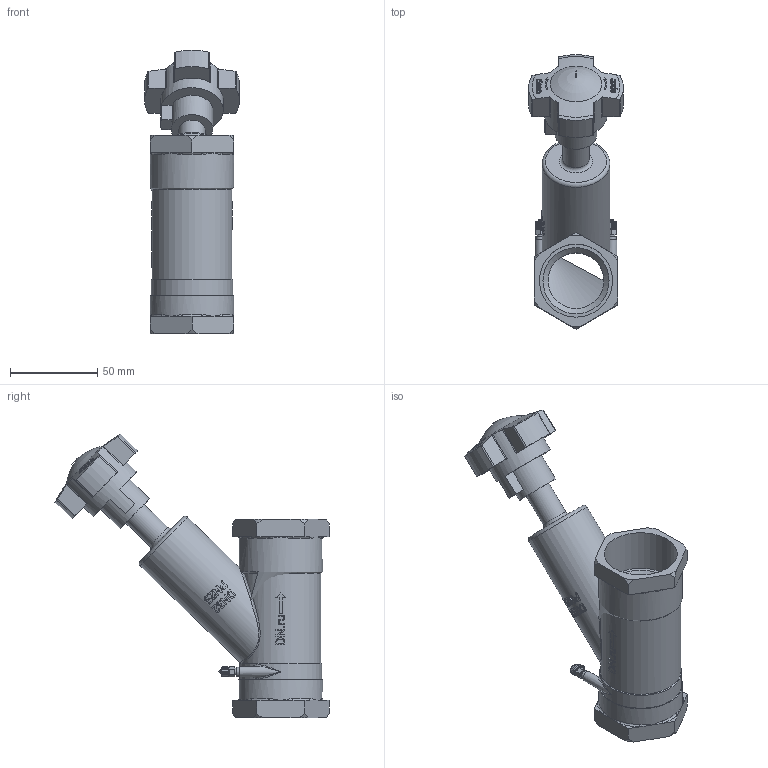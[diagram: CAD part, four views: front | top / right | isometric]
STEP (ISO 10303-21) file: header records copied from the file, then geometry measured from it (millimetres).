
FILE_DESCRIPTION(('STEP AP242'), '1');
FILE_NAME('VB0000P-T Êëàïàí áàëàíñèðîâî÷íûé DN.ru Äó32 Ðó25', '2026-04-26T18:02:23', ('R2D2'), (''), 'C3D Converter', 'C3D Toolkit', '');
FILE_SCHEMA(('AP242_MANAGED_MODEL_BASED_3D_ENGINEERING_MIM_LF { 1 0 10303 442 1 1 4 }'));
Length unit declared in the file: millimetre
Products named in the file (1): VB0000P-T
Bounding box: 54.26 x 157.4 x 162.95 mm (x, y, z)
Volume: 212884.8 mm3; surface area: 50522.4 mm2
Topology: 1 solids, 2 shells, 756 faces, 2078 edges, 1347 vertices
Faces by surface type: plane 322, extrusion 271, cylinder 78, bspline 30, cone 21, revolution 17, torus 15, sphere 2
Full cylindrical faces by diameter (mm): 2 x2, 4 x6, 5 x2, 6 x2, 15 x1, 24 x1, 32 x1, 33 x1, 36 x1, 39 x1, 41.91 x2, 47 x1, 48 x2
Entity records: 47602 total; most frequent: CARTESIAN_POINT 24423, ORIENTED_EDGE 4026, DIRECTION 2478, EDGE_CURVE 2013, VERTEX_POINT 1344, VECTOR 1133, B_SPLINE_CURVE_WITH_KNOTS 1060, LINE 862
